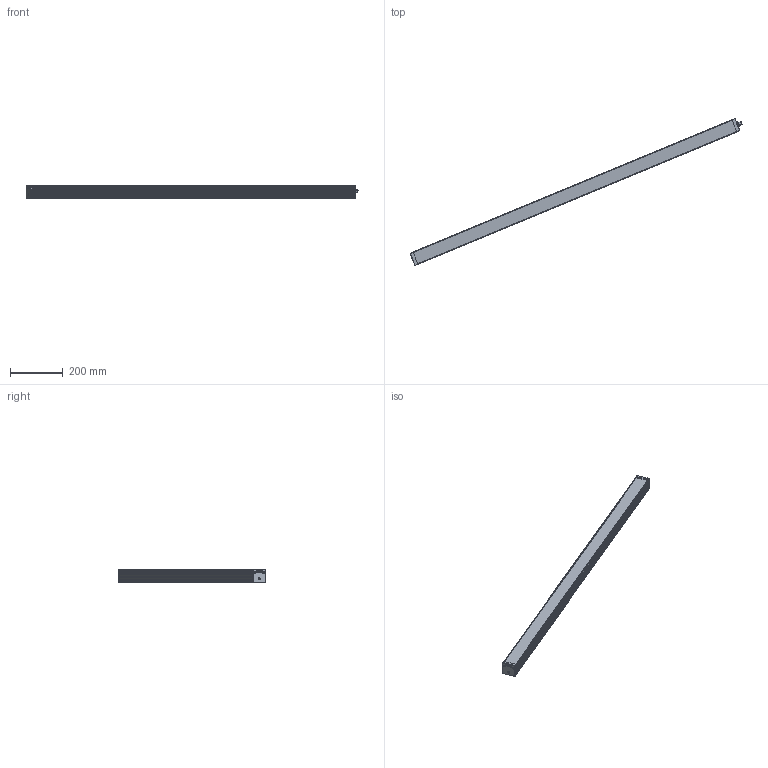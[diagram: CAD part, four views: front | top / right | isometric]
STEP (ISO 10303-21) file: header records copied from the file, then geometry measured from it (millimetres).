
FILE_DESCRIPTION (( 'STEP AP214' ), '1' );
FILE_NAME ('EFFI-FLEX-65.STEP', '2021-05-25T13:21:22', ( '' ), ( '' ), 'SwSTEP 2.0', 'SolidWorks 2021', '' );
FILE_SCHEMA (( 'AUTOMOTIVE_DESIGN' ));
Length unit declared in the file: millimetre
Products named in the file (6): 000605; 001596A323; EFFI-FLEX-65; 018305; 000096; 018302
Assembly tree (10 placements, depth 2):
  EFFI-FLEX-65
    018302
    000096
    018305
    001596A323
    000605  x6
Bounding box: 1260.02 x 557.69 x 49.12 mm (x, y, z)
Volume: 2521490.4 mm3; surface area: 764689.2 mm2
Topology: 12 solids, 12 shells, 1487 faces, 3903 edges, 2538 vertices
Faces by surface type: plane 839, cylinder 331, cone 162, bspline 149, torus 6
Entity records: 54259 total; most frequent: CARTESIAN_POINT 14759, ORIENTED_EDGE 6888, DIRECTION 6315, EDGE_CURVE 3444, LINE 2335, VECTOR 2335, VERTEX_POINT 2273, AXIS2_PLACEMENT_3D 1990
